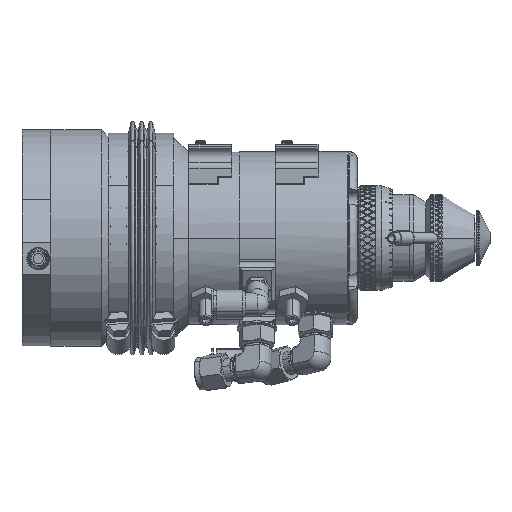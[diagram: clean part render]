
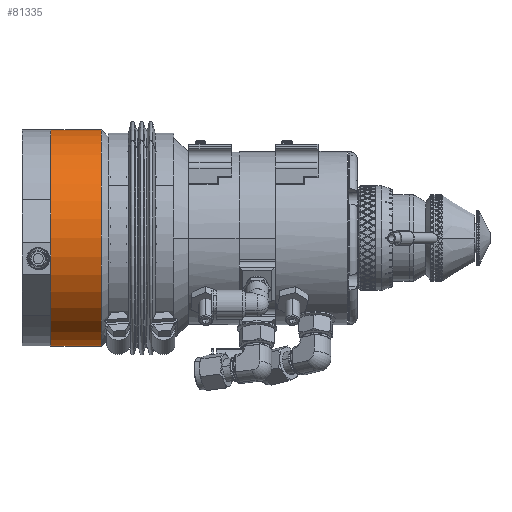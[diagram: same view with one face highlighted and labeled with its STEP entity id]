
A CAD part, left-side view. The second image highlights one B-rep face of the part: STEP entity #81335.
In plain terms, the highlighted cylindrical face has radius 47.625 mm (diameter 95.25 mm), a partial arc.
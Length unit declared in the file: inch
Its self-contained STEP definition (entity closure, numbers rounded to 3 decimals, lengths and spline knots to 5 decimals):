
#8448 = CIRCLE ( 'NONE', #132929, 1.875 ) ;
#11019 = DIRECTION ( 'NONE',  ( 0., 1., 0. ) ) ;
#22347 = DIRECTION ( 'NONE',  ( 0., 0., -1. ) ) ;
#25856 = LINE ( 'NONE', #112017, #190464 ) ;
#27487 = AXIS2_PLACEMENT_3D ( 'NONE', #57580, #11019, #122411 ) ;
#40432 = CARTESIAN_POINT ( 'NONE',  ( -0.00445, 13.58643, 0.04289 ) ) ;
#42946 = CARTESIAN_POINT ( 'NONE',  ( -0.00493, 13.58643, 1.91789 ) ) ;
#44268 = CYLINDRICAL_SURFACE ( 'NONE', #131723, 1.875 ) ;
#57580 = CARTESIAN_POINT ( 'NONE',  ( -0.00445, 12.71143, 0.04289 ) ) ;
#65301 = DIRECTION ( 'NONE',  ( 0., -1., 0. ) ) ;
#67066 = EDGE_CURVE ( 'NONE', #113024, #203062, #142235, .T. ) ;
#72763 = EDGE_CURVE ( 'Defeatured_4026+Defeatured_4025+Defeatured_4025+Defeatured_4025', #113024, #110107, #8448, .T. ) ;
#81335 = ADVANCED_FACE ( 'Defeatured_4025', ( #91680 ), #44268, .T. ) ;
#88743 = CARTESIAN_POINT ( 'NONE',  ( -0.00397, 13.58643, -1.83211 ) ) ;
#91680 = FACE_OUTER_BOUND ( 'NONE', #92706, .T. ) ;
#92706 = EDGE_LOOP ( 'NONE', ( #206680, #126399, #160880, #183526 ) ) ;
#100168 = CARTESIAN_POINT ( 'NONE',  ( -0.00493, 12.71143, 1.91789 ) ) ;
#110107 = VERTEX_POINT ( 'NONE', #42946 ) ;
#112017 = CARTESIAN_POINT ( 'NONE',  ( -0.00493, 13.58643, 1.91789 ) ) ;
#113024 = VERTEX_POINT ( 'NONE', #88743 ) ;
#116162 = CIRCLE ( 'NONE', #27487, 1.875 ) ;
#119853 = DIRECTION ( 'NONE',  ( 0., 1., 0. ) ) ;
#122411 = DIRECTION ( 'NONE',  ( 0., 0., 1. ) ) ;
#123374 = DIRECTION ( 'NONE',  ( 0., -1., 0. ) ) ;
#125560 = CARTESIAN_POINT ( 'NONE',  ( -0.00397, 12.71143, -1.83211 ) ) ;
#126399 = ORIENTED_EDGE ( 'NONE', *, *, #67066, .T. ) ;
#131723 = AXIS2_PLACEMENT_3D ( 'NONE', #40432, #152766, #184826 ) ;
#132929 = AXIS2_PLACEMENT_3D ( 'NONE', #184057, #119853, #22347 ) ;
#142235 = LINE ( 'NONE', #170164, #204545 ) ;
#150147 = EDGE_CURVE ( 'NONE', #110107, #175355, #25856, .T. ) ;
#152766 = DIRECTION ( 'NONE',  ( 0., -1., 0. ) ) ;
#160880 = ORIENTED_EDGE ( 'NONE', *, *, #199906, .T. ) ;
#170164 = CARTESIAN_POINT ( 'NONE',  ( -0.00397, 13.58643, -1.83211 ) ) ;
#175355 = VERTEX_POINT ( 'NONE', #100168 ) ;
#183526 = ORIENTED_EDGE ( 'NONE', *, *, #150147, .F. ) ;
#184057 = CARTESIAN_POINT ( 'NONE',  ( -0.00445, 13.58643, 0.04289 ) ) ;
#184826 = DIRECTION ( 'NONE',  ( 0., 0., 1. ) ) ;
#190464 = VECTOR ( 'NONE', #65301, 39.37008 ) ;
#199906 = EDGE_CURVE ( 'Defeatured_4025+Defeatured_40231+Defeatured_40231+Defeatured_40231', #203062, #175355, #116162, .T. ) ;
#203062 = VERTEX_POINT ( 'NONE', #125560 ) ;
#204545 = VECTOR ( 'NONE', #123374, 39.37008 ) ;
#206680 = ORIENTED_EDGE ( 'NONE', *, *, #72763, .F. ) ;
